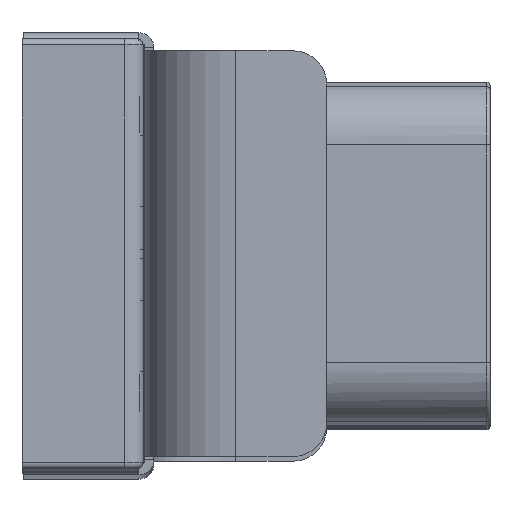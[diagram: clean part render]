
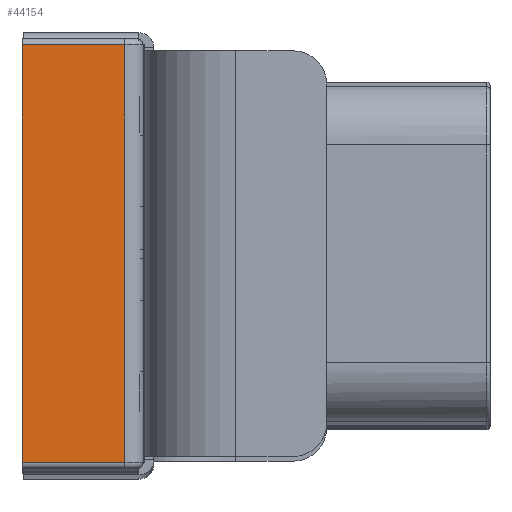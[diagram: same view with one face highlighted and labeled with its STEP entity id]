
A CAD part, top view. The second image highlights one B-rep face of the part: STEP entity #44154.
In plain terms, the highlighted planar face has unit normal (0, 0, 1).
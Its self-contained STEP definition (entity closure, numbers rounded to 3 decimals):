
#2264=DIRECTION('',(0.,-1.,0.));
#2265=VECTOR('',#2264,69.);
#2266=CARTESIAN_POINT('',(-20.3,34.5,213.5));
#2267=LINE('',#2266,#2265);
#5413=DIRECTION('',(1.,0.,0.));
#5414=VECTOR('',#5413,17.);
#5415=CARTESIAN_POINT('',(-20.3,34.5,213.5));
#5416=LINE('',#5415,#5414);
#5417=DIRECTION('',(0.,-1.,0.));
#5418=VECTOR('',#5417,69.);
#5419=CARTESIAN_POINT('',(-3.3,34.5,213.5));
#5420=LINE('',#5419,#5418);
#5421=DIRECTION('',(-1.,0.,0.));
#5422=VECTOR('',#5421,17.);
#5423=CARTESIAN_POINT('',(-3.3,-34.5,213.5));
#5424=LINE('',#5423,#5422);
#31295=CARTESIAN_POINT('',(-3.3,34.5,213.5));
#31296=VERTEX_POINT('',#31295);
#31299=CARTESIAN_POINT('',(-20.3,34.5,213.5));
#31301=VERTEX_POINT('',#31299);
#31304=CARTESIAN_POINT('',(-20.3,-34.5,213.5));
#31306=VERTEX_POINT('',#31304);
#31307=CARTESIAN_POINT('',(-3.3,-34.5,213.5));
#31308=VERTEX_POINT('',#31307);
#44141=CARTESIAN_POINT('',(-3.3,35.5,213.5));
#44142=DIRECTION('',(0.,0.,1.));
#44143=DIRECTION('',(-1.,0.,0.));
#44144=AXIS2_PLACEMENT_3D('',#44141,#44142,#44143);
#44145=PLANE('',#44144);
#44147=ORIENTED_EDGE('',*,*,#44146,.T.);
#44149=ORIENTED_EDGE('',*,*,#44148,.T.);
#44150=ORIENTED_EDGE('',*,*,#44126,.T.);
#44151=ORIENTED_EDGE('',*,*,#38023,.F.);
#44152=EDGE_LOOP('',(#44147,#44149,#44150,#44151));
#44153=FACE_OUTER_BOUND('',#44152,.F.);
#38023=EDGE_CURVE('',#31301,#31306,#2267,.T.);
#44126=EDGE_CURVE('',#31308,#31306,#5424,.T.);
#44146=EDGE_CURVE('',#31301,#31296,#5416,.T.);
#44148=EDGE_CURVE('',#31296,#31308,#5420,.T.);
#44154=ADVANCED_FACE('',(#44153),#44145,.T.);
